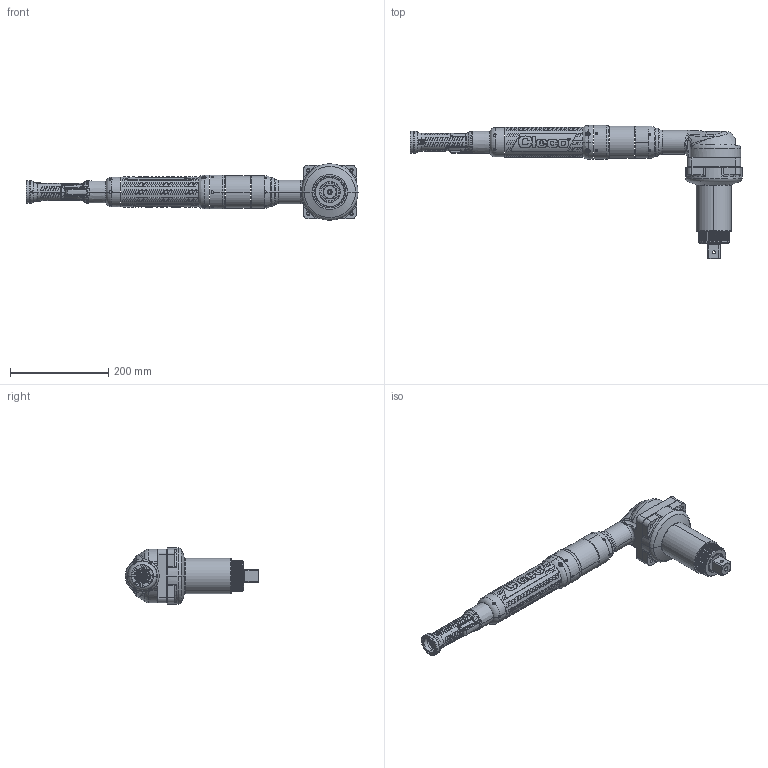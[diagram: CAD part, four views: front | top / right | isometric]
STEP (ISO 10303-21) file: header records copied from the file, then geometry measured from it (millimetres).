
FILE_DESCRIPTION((''),'2;1');
FILE_NAME('70EAN2000TB8MT_SW0001','2021-07-14T',('E2E42'),(''),'CREO PARAMETRIC BY PTC INC, 2016050','CREO PARAMETRIC BY PTC INC, 2016050','');
FILE_SCHEMA(('CONFIG_CONTROL_DESIGN'));
Length unit declared in the file: millimetre
Products named in the file (1): 70EAN2000TB8MT_SW0001
Bounding box: 677.04 x 271.85 x 115 mm (x, y, z)
Surface area: 225701.4 mm2 (no closed solid volume)
Topology: 0 solids, 257 shells, 2667 faces, 11443 edges, 8798 vertices
Faces by surface type: bspline 938, cylinder 748, plane 362, extrusion 226, cone 195, torus 190, sphere 8
Entity records: 196947 total; most frequent: CARTESIAN_POINT 118109, ORIENTED_EDGE 15668, DIRECTION 12800, EDGE_CURVE 11427, VERTEX_POINT 8798, B_SPLINE_CURVE_WITH_KNOTS 5358, AXIS2_PLACEMENT_3D 4776, CIRCLE 3273
